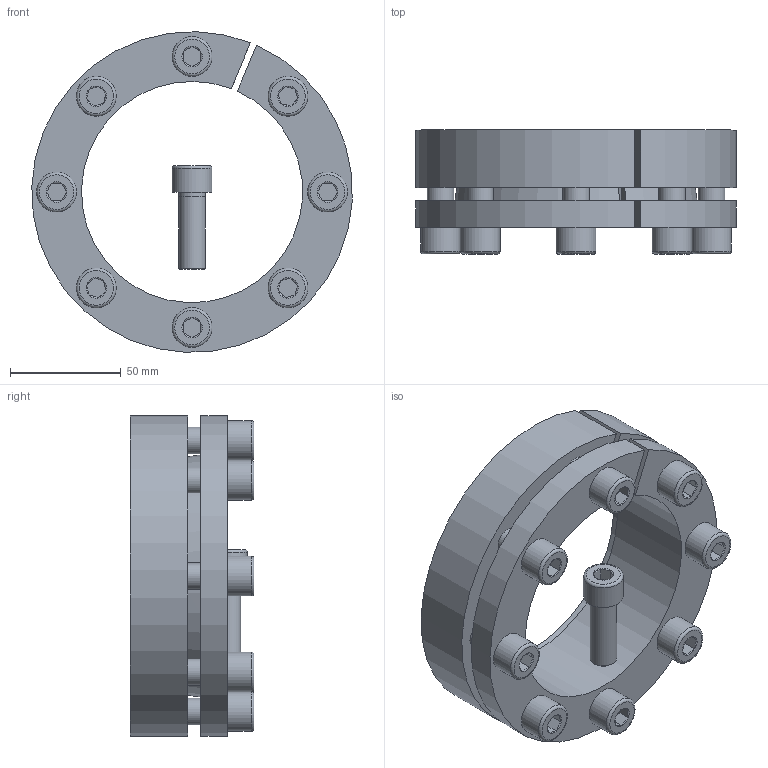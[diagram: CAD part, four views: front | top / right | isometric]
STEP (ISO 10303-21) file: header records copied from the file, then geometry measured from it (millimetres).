
FILE_DESCRIPTION( ( 'Unknown' ), '1' );
FILE_NAME( 'C:/Dokumente und Einstellungen/Sven/Desktop/homepage/cad - homepage/KBS13/KBS 13 - 100 x 145.stp', 'Unknown', ( 'Unknown' ), ( 'Unknown' ), 'XStep 1.0', 'Unknown', ' ' );
FILE_SCHEMA( ( 'automotive_design' ) );
Length unit declared in the file: millimetre
Products named in the file (3): Assem1; KBS 13 - 100 x 145; ISO EN DIN 4762 M12x35
Bounding box: 144.84 x 56 x 144.9 mm (x, y, z)
Volume: 659748.8 mm3; surface area: 172385.1 mm2
Topology: 11 solids, 11 shells, 281 faces, 573 edges, 350 vertices
Faces by surface type: plane 122, cylinder 74, cone 67, torus 18
Full cylindrical faces by diameter (mm): 11 x9, 12 x50, 18 x9
Entity records: 1774 total; most frequent: CARTESIAN_POINT 293, DIRECTION 272, ORIENTED_EDGE 194, AXIS2_PLACEMENT_3D 122, EDGE_LOOP 112, EDGE_CURVE 97, FACE_OUTER_BOUND 75, VERTEX_POINT 75
